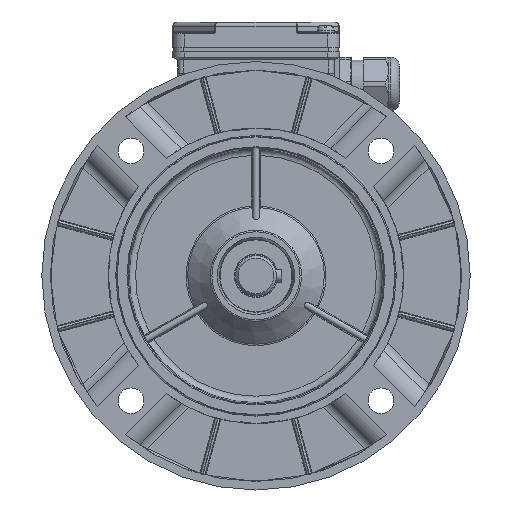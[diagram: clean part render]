
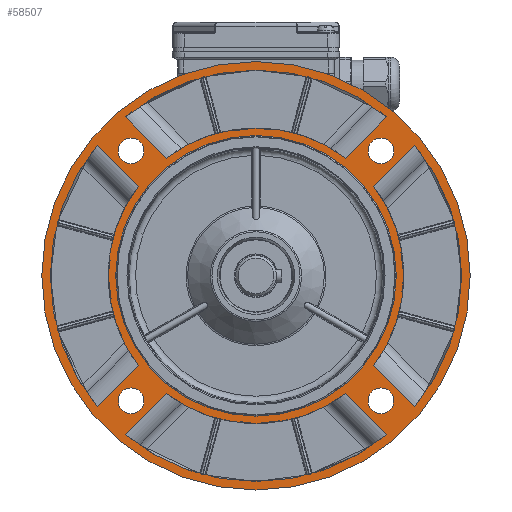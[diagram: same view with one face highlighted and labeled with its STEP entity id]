
A CAD part, left-side view. The second image highlights one B-rep face of the part: STEP entity #58507.
In plain terms, the highlighted planar face has unit normal (-1, 0, 0).
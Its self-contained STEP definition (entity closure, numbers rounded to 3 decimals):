
#4922=LINE('',#91091,#8171);
#4923=LINE('',#91096,#8172);
#4924=LINE('',#91099,#8173);
#4925=LINE('',#91104,#8174);
#4926=LINE('',#91109,#8175);
#4927=LINE('',#91114,#8176);
#4928=LINE('',#91117,#8177);
#4929=LINE('',#91122,#8178);
#8171=VECTOR('',#71795,1000.);
#8172=VECTOR('',#71798,1000.);
#8173=VECTOR('',#71801,1000.);
#8174=VECTOR('',#71804,1000.);
#8175=VECTOR('',#71809,1000.);
#8176=VECTOR('',#71812,1000.);
#8177=VECTOR('',#71815,1000.);
#8178=VECTOR('',#71818,1000.);
#17708=ORIENTED_EDGE('',*,*,#26319,.T.);
#17709=ORIENTED_EDGE('',*,*,#26320,.T.);
#17710=ORIENTED_EDGE('',*,*,#26321,.T.);
#17711=ORIENTED_EDGE('',*,*,#26322,.T.);
#17712=ORIENTED_EDGE('',*,*,#26323,.T.);
#17713=ORIENTED_EDGE('',*,*,#26324,.T.);
#17714=ORIENTED_EDGE('',*,*,#26325,.T.);
#17715=ORIENTED_EDGE('',*,*,#26326,.T.);
#17716=ORIENTED_EDGE('',*,*,#26197,.F.);
#17717=ORIENTED_EDGE('',*,*,#26196,.F.);
#17718=ORIENTED_EDGE('',*,*,#26195,.F.);
#17719=ORIENTED_EDGE('',*,*,#26194,.F.);
#17720=ORIENTED_EDGE('',*,*,#26327,.T.);
#17721=ORIENTED_EDGE('',*,*,#26318,.T.);
#17722=ORIENTED_EDGE('',*,*,#26328,.T.);
#17723=ORIENTED_EDGE('',*,*,#26329,.T.);
#17724=ORIENTED_EDGE('',*,*,#26330,.T.);
#17725=ORIENTED_EDGE('',*,*,#26331,.T.);
#17726=ORIENTED_EDGE('',*,*,#26332,.T.);
#17727=ORIENTED_EDGE('',*,*,#26333,.T.);
#17728=ORIENTED_EDGE('',*,*,#26334,.T.);
#17729=ORIENTED_EDGE('',*,*,#26335,.T.);
#26194=EDGE_CURVE('',#31229,#31229,#33962,.T.);
#26195=EDGE_CURVE('',#31230,#31230,#33963,.T.);
#26196=EDGE_CURVE('',#31231,#31231,#33964,.T.);
#26197=EDGE_CURVE('',#31232,#31232,#33965,.T.);
#26318=EDGE_CURVE('',#31310,#31310,#33979,.T.);
#26319=EDGE_CURVE('',#31311,#31312,#4922,.T.);
#26320=EDGE_CURVE('',#31312,#31313,#33980,.T.);
#26321=EDGE_CURVE('',#31313,#31314,#4923,.T.);
#26322=EDGE_CURVE('',#31314,#31311,#33981,.T.);
#26323=EDGE_CURVE('',#31315,#31316,#4924,.T.);
#26324=EDGE_CURVE('',#31316,#31317,#33982,.T.);
#26325=EDGE_CURVE('',#31317,#31318,#4925,.T.);
#26326=EDGE_CURVE('',#31318,#31315,#33983,.T.);
#26327=EDGE_CURVE('',#31319,#31319,#33984,.F.);
#26328=EDGE_CURVE('',#31320,#31321,#4926,.T.);
#26329=EDGE_CURVE('',#31321,#31322,#33985,.T.);
#26330=EDGE_CURVE('',#31322,#31323,#4927,.T.);
#26331=EDGE_CURVE('',#31323,#31320,#33986,.T.);
#26332=EDGE_CURVE('',#31324,#31325,#4928,.T.);
#26333=EDGE_CURVE('',#31325,#31326,#33987,.T.);
#26334=EDGE_CURVE('',#31326,#31327,#4929,.T.);
#26335=EDGE_CURVE('',#31327,#31324,#33988,.T.);
#31229=VERTEX_POINT('',#90781);
#31230=VERTEX_POINT('',#90784);
#31231=VERTEX_POINT('',#90787);
#31232=VERTEX_POINT('',#90790);
#31310=VERTEX_POINT('',#91089);
#31311=VERTEX_POINT('',#91092);
#31312=VERTEX_POINT('',#91093);
#31313=VERTEX_POINT('',#91095);
#31314=VERTEX_POINT('',#91097);
#31315=VERTEX_POINT('',#91100);
#31316=VERTEX_POINT('',#91101);
#31317=VERTEX_POINT('',#91103);
#31318=VERTEX_POINT('',#91105);
#31319=VERTEX_POINT('',#91108);
#31320=VERTEX_POINT('',#91110);
#31321=VERTEX_POINT('',#91111);
#31322=VERTEX_POINT('',#91113);
#31323=VERTEX_POINT('',#91115);
#31324=VERTEX_POINT('',#91118);
#31325=VERTEX_POINT('',#91119);
#31326=VERTEX_POINT('',#91121);
#31327=VERTEX_POINT('',#91123);
#33962=CIRCLE('',#62126,6.);
#33963=CIRCLE('',#62128,6.);
#33964=CIRCLE('',#62130,6.);
#33965=CIRCLE('',#62132,6.);
#33979=CIRCLE('',#62201,100.);
#33980=CIRCLE('',#62203,69.);
#33981=CIRCLE('',#62204,96.);
#33982=CIRCLE('',#62205,69.);
#33983=CIRCLE('',#62206,96.);
#33984=CIRCLE('',#62207,65.5);
#33985=CIRCLE('',#62208,69.);
#33986=CIRCLE('',#62209,96.);
#33987=CIRCLE('',#62210,69.);
#33988=CIRCLE('',#62211,96.);
#36387=EDGE_LOOP('',(#17708,#17709,#17710,#17711));
#36388=EDGE_LOOP('',(#17712,#17713,#17714,#17715));
#36389=EDGE_LOOP('',(#17716));
#36390=EDGE_LOOP('',(#17717));
#36391=EDGE_LOOP('',(#17718));
#36392=EDGE_LOOP('',(#17719));
#36393=EDGE_LOOP('',(#17720));
#36394=EDGE_LOOP('',(#17721));
#36395=EDGE_LOOP('',(#17722,#17723,#17724,#17725));
#36396=EDGE_LOOP('',(#17726,#17727,#17728,#17729));
#39288=FACE_BOUND('',#36387,.T.);
#39289=FACE_BOUND('',#36388,.T.);
#39290=FACE_BOUND('',#36389,.T.);
#39291=FACE_BOUND('',#36390,.T.);
#39292=FACE_BOUND('',#36391,.T.);
#39293=FACE_BOUND('',#36392,.T.);
#39294=FACE_BOUND('',#36393,.T.);
#39295=FACE_BOUND('',#36394,.T.);
#39296=FACE_BOUND('',#36395,.T.);
#39297=FACE_BOUND('',#36396,.T.);
#41104=PLANE('',#62202);
#58507=ADVANCED_FACE('',(#39288,#39289,#39290,#39291,#39292,#39293,#39294,
#39295,#39296,#39297),#41104,.T.);
#62126=AXIS2_PLACEMENT_3D('',#90780,#71561,#71562);
#62128=AXIS2_PLACEMENT_3D('',#90783,#71565,#71566);
#62130=AXIS2_PLACEMENT_3D('',#90786,#71569,#71570);
#62132=AXIS2_PLACEMENT_3D('',#90789,#71573,#71574);
#62201=AXIS2_PLACEMENT_3D('',#91088,#71791,#71792);
#62202=AXIS2_PLACEMENT_3D('',#91090,#71793,#71794);
#62203=AXIS2_PLACEMENT_3D('',#91094,#71796,#71797);
#62204=AXIS2_PLACEMENT_3D('',#91098,#71799,#71800);
#62205=AXIS2_PLACEMENT_3D('',#91102,#71802,#71803);
#62206=AXIS2_PLACEMENT_3D('',#91106,#71805,#71806);
#62207=AXIS2_PLACEMENT_3D('',#91107,#71807,#71808);
#62208=AXIS2_PLACEMENT_3D('',#91112,#71810,#71811);
#62209=AXIS2_PLACEMENT_3D('',#91116,#71813,#71814);
#62210=AXIS2_PLACEMENT_3D('',#91120,#71816,#71817);
#62211=AXIS2_PLACEMENT_3D('',#91124,#71819,#71820);
#71561=DIRECTION('',(-1.,0.,0.));
#71562=DIRECTION('',(0.,-1.,0.));
#71565=DIRECTION('',(-1.,0.,0.));
#71566=DIRECTION('',(0.,-1.,0.));
#71569=DIRECTION('',(-1.,0.,0.));
#71570=DIRECTION('',(0.,-1.,0.));
#71573=DIRECTION('',(-1.,0.,0.));
#71574=DIRECTION('',(0.,-1.,0.));
#71791=DIRECTION('',(-1.,0.,0.));
#71792=DIRECTION('',(0.,0.,-1.));
#71793=DIRECTION('',(-1.,0.,0.));
#71794=DIRECTION('',(0.,0.,-1.));
#71795=DIRECTION('',(0.,-0.707,-0.707));
#71796=DIRECTION('',(-1.,0.,0.));
#71797=DIRECTION('',(0.,-1.,0.));
#71798=DIRECTION('',(0.,0.707,-0.707));
#71799=DIRECTION('',(1.,0.,0.));
#71800=DIRECTION('',(0.,-1.,0.));
#71801=DIRECTION('',(0.,0.707,0.707));
#71802=DIRECTION('',(-1.,0.,0.));
#71803=DIRECTION('',(0.,1.,0.));
#71804=DIRECTION('',(0.,-0.707,0.707));
#71805=DIRECTION('',(1.,0.,0.));
#71806=DIRECTION('',(0.,1.,0.));
#71807=DIRECTION('',(-1.,0.,0.));
#71808=DIRECTION('',(0.,0.,-1.));
#71809=DIRECTION('',(0.,-0.707,0.707));
#71810=DIRECTION('',(-1.,0.,0.));
#71811=DIRECTION('',(0.,0.,1.));
#71812=DIRECTION('',(0.,-0.707,-0.707));
#71813=DIRECTION('',(1.,0.,0.));
#71814=DIRECTION('',(0.,0.,1.));
#71815=DIRECTION('',(0.,0.707,-0.707));
#71816=DIRECTION('',(-1.,0.,0.));
#71817=DIRECTION('',(0.,0.,-1.));
#71818=DIRECTION('',(0.,0.707,0.707));
#71819=DIRECTION('',(1.,0.,0.));
#71820=DIRECTION('',(0.,0.,-1.));
#90780=CARTESIAN_POINT('',(-44.3,58.336,58.336));
#90781=CARTESIAN_POINT('',(-44.3,52.336,58.336));
#90783=CARTESIAN_POINT('',(-44.3,-58.336,58.336));
#90784=CARTESIAN_POINT('',(-44.3,-64.336,58.336));
#90786=CARTESIAN_POINT('',(-44.3,-58.336,-58.336));
#90787=CARTESIAN_POINT('',(-44.3,-64.336,-58.336));
#90789=CARTESIAN_POINT('',(-44.3,58.336,-58.336));
#90790=CARTESIAN_POINT('',(-44.3,52.336,-58.336));
#91088=CARTESIAN_POINT('',(-44.3,0.,0.));
#91089=CARTESIAN_POINT('',(-44.3,0.,-100.));
#91090=CARTESIAN_POINT('',(-44.3,0.,-65.));
#91091=CARTESIAN_POINT('',(-44.3,53.605,40.403));
#91092=CARTESIAN_POINT('',(-44.3,74.161,60.96));
#91093=CARTESIAN_POINT('',(-44.3,54.943,41.741));
#91094=CARTESIAN_POINT('',(-44.3,0.,0.));
#91095=CARTESIAN_POINT('',(-44.3,54.943,-41.741));
#91096=CARTESIAN_POINT('',(-44.3,73.211,-60.009));
#91097=CARTESIAN_POINT('',(-44.3,74.161,-60.96));
#91098=CARTESIAN_POINT('',(-44.3,0.,0.));
#91099=CARTESIAN_POINT('',(-44.3,-53.605,-40.403));
#91100=CARTESIAN_POINT('',(-44.3,-74.161,-60.96));
#91101=CARTESIAN_POINT('',(-44.3,-54.943,-41.741));
#91102=CARTESIAN_POINT('',(-44.3,0.,0.));
#91103=CARTESIAN_POINT('',(-44.3,-54.943,41.741));
#91104=CARTESIAN_POINT('',(-44.3,-73.211,60.009));
#91105=CARTESIAN_POINT('',(-44.3,-74.161,60.96));
#91106=CARTESIAN_POINT('',(-44.3,0.,0.));
#91107=CARTESIAN_POINT('',(-44.3,0.,0.));
#91108=CARTESIAN_POINT('',(-44.3,0.,-65.5));
#91109=CARTESIAN_POINT('',(-44.3,40.403,-53.605));
#91110=CARTESIAN_POINT('',(-44.3,60.96,-74.161));
#91111=CARTESIAN_POINT('',(-44.3,41.741,-54.943));
#91112=CARTESIAN_POINT('',(-44.3,0.,0.));
#91113=CARTESIAN_POINT('',(-44.3,-41.741,-54.943));
#91114=CARTESIAN_POINT('',(-44.3,-60.009,-73.211));
#91115=CARTESIAN_POINT('',(-44.3,-60.96,-74.161));
#91116=CARTESIAN_POINT('',(-44.3,0.,0.));
#91117=CARTESIAN_POINT('',(-44.3,-40.403,53.605));
#91118=CARTESIAN_POINT('',(-44.3,-60.96,74.161));
#91119=CARTESIAN_POINT('',(-44.3,-41.741,54.943));
#91120=CARTESIAN_POINT('',(-44.3,0.,0.));
#91121=CARTESIAN_POINT('',(-44.3,41.741,54.943));
#91122=CARTESIAN_POINT('',(-44.3,60.009,73.211));
#91123=CARTESIAN_POINT('',(-44.3,60.96,74.161));
#91124=CARTESIAN_POINT('',(-44.3,0.,0.));
